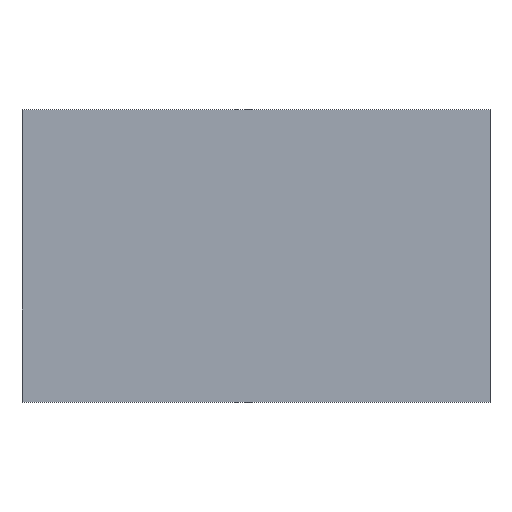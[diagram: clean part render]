
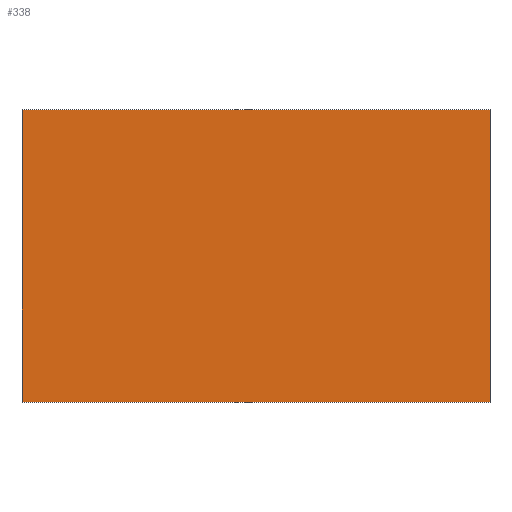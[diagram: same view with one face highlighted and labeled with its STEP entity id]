
A CAD part, top view. The second image highlights one B-rep face of the part: STEP entity #338.
In plain terms, the highlighted planar face has unit normal (0, 0, 1).
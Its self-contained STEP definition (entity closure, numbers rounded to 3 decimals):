
#24 = VERTEX_POINT('',#25);
#25 = CARTESIAN_POINT('',(-31.3,26.98,-7.95));
#32 = PLANE('',#33);
#33 = AXIS2_PLACEMENT_3D('',#34,#35,#36);
#34 = CARTESIAN_POINT('',(-31.3,26.98,-16.75));
#35 = DIRECTION('',(1.,0.,-0.));
#36 = DIRECTION('',(0.,0.,1.));
#44 = PLANE('',#45);
#45 = AXIS2_PLACEMENT_3D('',#46,#47,#48);
#46 = CARTESIAN_POINT('',(-31.3,26.98,-16.75));
#47 = DIRECTION('',(-0.,1.,0.));
#48 = DIRECTION('',(0.,0.,1.));
#85 = VERTEX_POINT('',#86);
#86 = CARTESIAN_POINT('',(-31.3,66.08,-7.95));
#100 = PLANE('',#101);
#101 = AXIS2_PLACEMENT_3D('',#102,#103,#104);
#102 = CARTESIAN_POINT('',(-31.3,66.08,-16.75));
#103 = DIRECTION('',(-0.,1.,0.));
#104 = DIRECTION('',(0.,0.,1.));
#112 = EDGE_CURVE('',#24,#85,#113,.T.);
#113 = SURFACE_CURVE('',#114,(#118,#125),.PCURVE_S1.);
#114 = LINE('',#115,#116);
#115 = CARTESIAN_POINT('',(-31.3,26.98,-7.95));
#116 = VECTOR('',#117,1.);
#117 = DIRECTION('',(-0.,1.,0.));
#118 = PCURVE('',#32,#119);
#119 = DEFINITIONAL_REPRESENTATION('',(#120),#124);
#120 = LINE('',#121,#122);
#121 = CARTESIAN_POINT('',(8.8,0.));
#122 = VECTOR('',#123,1.);
#123 = DIRECTION('',(0.,-1.));
#124 = ( GEOMETRIC_REPRESENTATION_CONTEXT(2) 
PARAMETRIC_REPRESENTATION_CONTEXT() REPRESENTATION_CONTEXT('2D SPACE',''
  ) );
#125 = PCURVE('',#126,#131);
#126 = PLANE('',#127);
#127 = AXIS2_PLACEMENT_3D('',#128,#129,#130);
#128 = CARTESIAN_POINT('',(-31.3,26.98,-7.95));
#129 = DIRECTION('',(0.,0.,1.));
#130 = DIRECTION('',(1.,0.,-0.));
#131 = DEFINITIONAL_REPRESENTATION('',(#132),#136);
#132 = LINE('',#133,#134);
#133 = CARTESIAN_POINT('',(0.,0.));
#134 = VECTOR('',#135,1.);
#135 = DIRECTION('',(0.,1.));
#136 = ( GEOMETRIC_REPRESENTATION_CONTEXT(2) 
PARAMETRIC_REPRESENTATION_CONTEXT() REPRESENTATION_CONTEXT('2D SPACE',''
  ) );
#144 = VERTEX_POINT('',#145);
#145 = CARTESIAN_POINT('',(31.3,26.98,-7.95));
#152 = PLANE('',#153);
#153 = AXIS2_PLACEMENT_3D('',#154,#155,#156);
#154 = CARTESIAN_POINT('',(31.3,26.98,-16.75));
#155 = DIRECTION('',(1.,0.,-0.));
#156 = DIRECTION('',(0.,0.,1.));
#195 = VERTEX_POINT('',#196);
#196 = CARTESIAN_POINT('',(31.3,66.08,-7.95));
#217 = EDGE_CURVE('',#144,#195,#218,.T.);
#218 = SURFACE_CURVE('',#219,(#223,#230),.PCURVE_S1.);
#219 = LINE('',#220,#221);
#220 = CARTESIAN_POINT('',(31.3,26.98,-7.95));
#221 = VECTOR('',#222,1.);
#222 = DIRECTION('',(-0.,1.,0.));
#223 = PCURVE('',#152,#224);
#224 = DEFINITIONAL_REPRESENTATION('',(#225),#229);
#225 = LINE('',#226,#227);
#226 = CARTESIAN_POINT('',(8.8,0.));
#227 = VECTOR('',#228,1.);
#228 = DIRECTION('',(0.,-1.));
#229 = ( GEOMETRIC_REPRESENTATION_CONTEXT(2) 
PARAMETRIC_REPRESENTATION_CONTEXT() REPRESENTATION_CONTEXT('2D SPACE',''
  ) );
#230 = PCURVE('',#126,#231);
#231 = DEFINITIONAL_REPRESENTATION('',(#232),#236);
#232 = LINE('',#233,#234);
#233 = CARTESIAN_POINT('',(62.6,0.));
#234 = VECTOR('',#235,1.);
#235 = DIRECTION('',(0.,1.));
#236 = ( GEOMETRIC_REPRESENTATION_CONTEXT(2) 
PARAMETRIC_REPRESENTATION_CONTEXT() REPRESENTATION_CONTEXT('2D SPACE',''
  ) );
#263 = EDGE_CURVE('',#24,#144,#264,.T.);
#264 = SURFACE_CURVE('',#265,(#269,#276),.PCURVE_S1.);
#265 = LINE('',#266,#267);
#266 = CARTESIAN_POINT('',(-31.3,26.98,-7.95));
#267 = VECTOR('',#268,1.);
#268 = DIRECTION('',(1.,0.,-0.));
#269 = PCURVE('',#44,#270);
#270 = DEFINITIONAL_REPRESENTATION('',(#271),#275);
#271 = LINE('',#272,#273);
#272 = CARTESIAN_POINT('',(8.8,0.));
#273 = VECTOR('',#274,1.);
#274 = DIRECTION('',(0.,1.));
#275 = ( GEOMETRIC_REPRESENTATION_CONTEXT(2) 
PARAMETRIC_REPRESENTATION_CONTEXT() REPRESENTATION_CONTEXT('2D SPACE',''
  ) );
#276 = PCURVE('',#126,#277);
#277 = DEFINITIONAL_REPRESENTATION('',(#278),#282);
#278 = LINE('',#279,#280);
#279 = CARTESIAN_POINT('',(0.,0.));
#280 = VECTOR('',#281,1.);
#281 = DIRECTION('',(1.,0.));
#282 = ( GEOMETRIC_REPRESENTATION_CONTEXT(2) 
PARAMETRIC_REPRESENTATION_CONTEXT() REPRESENTATION_CONTEXT('2D SPACE',''
  ) );
#310 = EDGE_CURVE('',#85,#195,#311,.T.);
#311 = SURFACE_CURVE('',#312,(#316,#323),.PCURVE_S1.);
#312 = LINE('',#313,#314);
#313 = CARTESIAN_POINT('',(-31.3,66.08,-7.95));
#314 = VECTOR('',#315,1.);
#315 = DIRECTION('',(1.,0.,-0.));
#316 = PCURVE('',#100,#317);
#317 = DEFINITIONAL_REPRESENTATION('',(#318),#322);
#318 = LINE('',#319,#320);
#319 = CARTESIAN_POINT('',(8.8,0.));
#320 = VECTOR('',#321,1.);
#321 = DIRECTION('',(0.,1.));
#322 = ( GEOMETRIC_REPRESENTATION_CONTEXT(2) 
PARAMETRIC_REPRESENTATION_CONTEXT() REPRESENTATION_CONTEXT('2D SPACE',''
  ) );
#323 = PCURVE('',#126,#324);
#324 = DEFINITIONAL_REPRESENTATION('',(#325),#329);
#325 = LINE('',#326,#327);
#326 = CARTESIAN_POINT('',(0.,39.1));
#327 = VECTOR('',#328,1.);
#328 = DIRECTION('',(1.,0.));
#329 = ( GEOMETRIC_REPRESENTATION_CONTEXT(2) 
PARAMETRIC_REPRESENTATION_CONTEXT() REPRESENTATION_CONTEXT('2D SPACE',''
  ) );
#338 = ADVANCED_FACE('',(#339),#126,.T.);
#339 = FACE_BOUND('',#340,.T.);
#340 = EDGE_LOOP('',(#341,#342,#343,#344));
#341 = ORIENTED_EDGE('',*,*,#112,.F.);
#342 = ORIENTED_EDGE('',*,*,#263,.T.);
#343 = ORIENTED_EDGE('',*,*,#217,.T.);
#344 = ORIENTED_EDGE('',*,*,#310,.F.);
